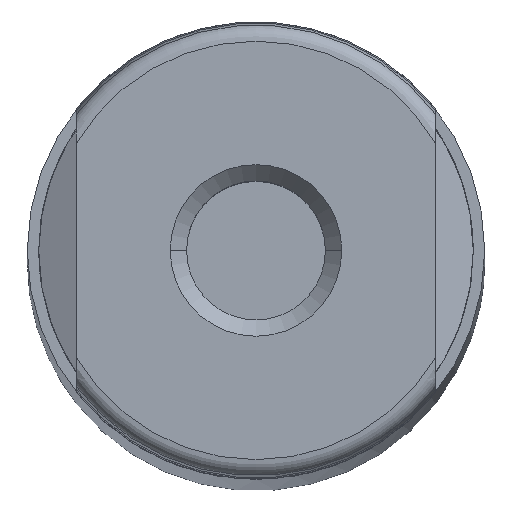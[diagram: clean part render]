
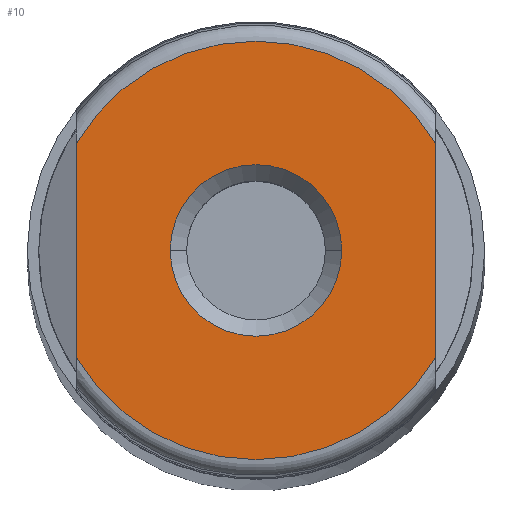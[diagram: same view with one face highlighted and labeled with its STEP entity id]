
A CAD part, top view. The second image highlights one B-rep face of the part: STEP entity #10.
In plain terms, the highlighted planar face has unit normal (0, 0, 1).
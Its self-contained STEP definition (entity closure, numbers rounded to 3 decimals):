
#10 = ADVANCED_FACE ( 'NONE', ( #383, #384 ), #385, .F. ) ;
#28 = EDGE_CURVE ( 'NONE', #68, #779, #523, .T. ) ;
#31 = ORIENTED_EDGE ( 'NONE', *, *, #28, .T. ) ;
#52 = VERTEX_POINT ( 'NONE', #689 ) ;
#54 = EDGE_CURVE ( 'NONE', #1326, #52, #704, .T. ) ;
#58 = EDGE_LOOP ( 'NONE', ( #31, #65, #1294, #1334 ) ) ;
#65 = ORIENTED_EDGE ( 'NONE', *, *, #93, .T. ) ;
#68 = VERTEX_POINT ( 'NONE', #879 ) ;
#93 = EDGE_CURVE ( 'NONE', #779, #1326, #1094, .T. ) ;
#102 = EDGE_CURVE ( 'NONE', #519, #174, #1145, .T. ) ;
#174 = VERTEX_POINT ( 'NONE', #936 ) ;
#190 = ORIENTED_EDGE ( 'NONE', *, *, #102, .F. ) ;
#191 = EDGE_LOOP ( 'NONE', ( #190, #1365 ) ) ;
#383 = FACE_BOUND ( 'NONE', #191, .T. ) ;
#384 = FACE_OUTER_BOUND ( 'NONE', #58, .T. ) ;
#385 = PLANE ( 'NONE',  #386 ) ;
#386 = AXIS2_PLACEMENT_3D ( 'NONE', #387, #388, #389 ) ;
#387 = CARTESIAN_POINT ( 'NONE',  ( 0., 0., 0. ) ) ;
#388 = DIRECTION ( 'NONE',  ( 0., 0., -1. ) ) ;
#389 = DIRECTION ( 'NONE',  ( -1., 0., 0. ) ) ;
#519 = VERTEX_POINT ( 'NONE', #926 ) ;
#523 = CIRCLE ( 'NONE', #524, 12.808 ) ;
#524 = AXIS2_PLACEMENT_3D ( 'NONE', #525, #526, #527 ) ;
#525 = CARTESIAN_POINT ( 'NONE',  ( 0., 0., 0. ) ) ;
#526 = DIRECTION ( 'NONE',  ( 0., 0., 1. ) ) ;
#527 = DIRECTION ( 'NONE',  ( 1., 0., 0. ) ) ;
#689 = CARTESIAN_POINT ( 'NONE',  ( -11., 6.56, 0. ) ) ;
#704 = CIRCLE ( 'NONE', #705, 12.808 ) ;
#705 = AXIS2_PLACEMENT_3D ( 'NONE', #706, #707, #708 ) ;
#706 = CARTESIAN_POINT ( 'NONE',  ( 0., 0., 0. ) ) ;
#707 = DIRECTION ( 'NONE',  ( 0., 0., 1. ) ) ;
#708 = DIRECTION ( 'NONE',  ( 1., 0., 0. ) ) ;
#724 = EDGE_CURVE ( 'NONE', #68, #52, #1071, .T. ) ;
#779 = VERTEX_POINT ( 'NONE', #1126 ) ;
#845 = CIRCLE ( 'NONE', #846, 5.25 ) ;
#846 = AXIS2_PLACEMENT_3D ( 'NONE', #847, #848, #852 ) ;
#847 = CARTESIAN_POINT ( 'NONE',  ( 0., 0., 0. ) ) ;
#848 = DIRECTION ( 'NONE',  ( 0., 0., 1. ) ) ;
#852 = DIRECTION ( 'NONE',  ( 1., 0., 0. ) ) ;
#879 = CARTESIAN_POINT ( 'NONE',  ( -11., -6.56, 0. ) ) ;
#926 = CARTESIAN_POINT ( 'NONE',  ( 5.25, 0., 0. ) ) ;
#936 = CARTESIAN_POINT ( 'NONE',  ( -5.25, 0., 0. ) ) ;
#960 = CARTESIAN_POINT ( 'NONE',  ( 11., 6.56, 0. ) ) ;
#1071 = LINE ( 'NONE', #1072, #1074 ) ;
#1072 = CARTESIAN_POINT ( 'NONE',  ( -11., -14., 0. ) ) ;
#1074 = VECTOR ( 'NONE', #1075, 1000. ) ;
#1075 = DIRECTION ( 'NONE',  ( 0., 1., 0. ) ) ;
#1094 = LINE ( 'NONE', #1095, #1096 ) ;
#1095 = CARTESIAN_POINT ( 'NONE',  ( 11., -14., 0. ) ) ;
#1096 = VECTOR ( 'NONE', #1097, 1000. ) ;
#1097 = DIRECTION ( 'NONE',  ( 0., 1., 0. ) ) ;
#1126 = CARTESIAN_POINT ( 'NONE',  ( 11., -6.56, 0. ) ) ;
#1145 = CIRCLE ( 'NONE', #1146, 5.25 ) ;
#1146 = AXIS2_PLACEMENT_3D ( 'NONE', #1147, #1148, #1149 ) ;
#1147 = CARTESIAN_POINT ( 'NONE',  ( 0., 0., 0. ) ) ;
#1148 = DIRECTION ( 'NONE',  ( 0., 0., 1. ) ) ;
#1149 = DIRECTION ( 'NONE',  ( 1., 0., 0. ) ) ;
#1294 = ORIENTED_EDGE ( 'NONE', *, *, #54, .T. ) ;
#1311 = EDGE_CURVE ( 'NONE', #174, #519, #845, .T. ) ;
#1326 = VERTEX_POINT ( 'NONE', #960 ) ;
#1334 = ORIENTED_EDGE ( 'NONE', *, *, #724, .F. ) ;
#1365 = ORIENTED_EDGE ( 'NONE', *, *, #1311, .F. ) ;
